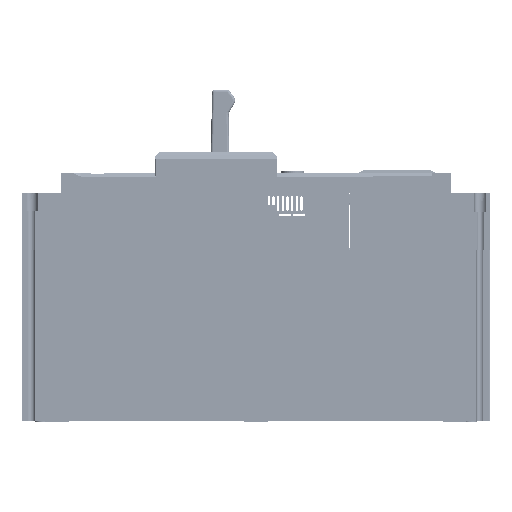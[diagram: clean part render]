
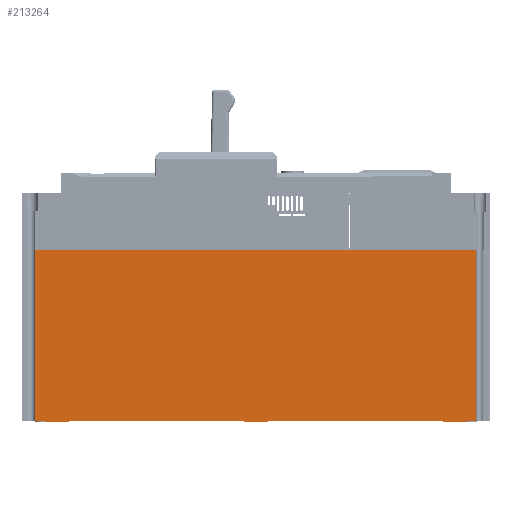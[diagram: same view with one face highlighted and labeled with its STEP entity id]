
A CAD part, top view. The second image highlights one B-rep face of the part: STEP entity #213264.
In plain terms, the highlighted planar face has unit normal (0, 0, 1).
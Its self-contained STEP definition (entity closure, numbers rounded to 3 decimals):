
#3639 = CARTESIAN_POINT ( 'NONE',  ( 113.396, 73., 67. ) ) ;
#5028 = VERTEX_POINT ( 'NONE', #497399 ) ;
#15201 = ORIENTED_EDGE ( 'NONE', *, *, #493114, .F. ) ;
#18363 = ORIENTED_EDGE ( 'NONE', *, *, #265321, .F. ) ;
#20370 = ORIENTED_EDGE ( 'NONE', *, *, #526291, .F. ) ;
#25101 = LINE ( 'NONE', #527562, #390884 ) ;
#26232 = DIRECTION ( 'NONE',  ( 0., 0., -1. ) ) ;
#28386 = DIRECTION ( 'NONE',  ( 0., -1., 0. ) ) ;
#28898 = CARTESIAN_POINT ( 'NONE',  ( -75.104, 0., 67. ) ) ;
#40007 = LINE ( 'NONE', #433467, #229737 ) ;
#46255 = CARTESIAN_POINT ( 'NONE',  ( 119.146, 0., 67. ) ) ;
#55621 = VERTEX_POINT ( 'NONE', #174013 ) ;
#74261 = DIRECTION ( 'NONE',  ( 0., 1., 0. ) ) ;
#85847 = VERTEX_POINT ( 'NONE', #451583 ) ;
#89821 = EDGE_CURVE ( 'NONE', #356897, #457767, #168728, .T. ) ;
#89988 = CARTESIAN_POINT ( 'NONE',  ( 109.146, 73., 67. ) ) ;
#90872 = VECTOR ( 'NONE', #154052, 1000. ) ;
#93621 = VERTEX_POINT ( 'NONE', #471708 ) ;
#101137 = DIRECTION ( 'NONE',  ( -1., 0., 0. ) ) ;
#101715 = ORIENTED_EDGE ( 'NONE', *, *, #288884, .F. ) ;
#106974 = CARTESIAN_POINT ( 'NONE',  ( 119.146, 0., 67. ) ) ;
#107815 = EDGE_CURVE ( 'NONE', #131280, #139687, #548832, .T. ) ;
#112816 = ORIENTED_EDGE ( 'NONE', *, *, #462921, .F. ) ;
#114953 = PLANE ( 'NONE',  #465800 ) ;
#115438 = CARTESIAN_POINT ( 'NONE',  ( 119.146, -0.5, 67. ) ) ;
#117400 = CARTESIAN_POINT ( 'NONE',  ( 14.146, -0.5, 67. ) ) ;
#129676 = DIRECTION ( 'NONE',  ( -1., 0., 0. ) ) ;
#131280 = VERTEX_POINT ( 'NONE', #547111 ) ;
#134986 = LINE ( 'NONE', #315282, #519952 ) ;
#137478 = ORIENTED_EDGE ( 'NONE', *, *, #275151, .F. ) ;
#139687 = VERTEX_POINT ( 'NONE', #243358 ) ;
#139990 = VECTOR ( 'NONE', #507394, 1000. ) ;
#143505 = VERTEX_POINT ( 'NONE', #513595 ) ;
#143963 = ORIENTED_EDGE ( 'NONE', *, *, #430348, .F. ) ;
#147740 = CARTESIAN_POINT ( 'NONE',  ( 119.146, 73., 67. ) ) ;
#148315 = EDGE_CURVE ( 'NONE', #139687, #55621, #40007, .T. ) ;
#150631 = DIRECTION ( 'NONE',  ( 0., -1., 0. ) ) ;
#154052 = DIRECTION ( 'NONE',  ( -1., 0., 0. ) ) ;
#161008 = VERTEX_POINT ( 'NONE', #457369 ) ;
#162111 = CARTESIAN_POINT ( 'NONE',  ( 24.146, 73., 67. ) ) ;
#163834 = EDGE_CURVE ( 'NONE', #93621, #568760, #212196, .T. ) ;
#168728 = LINE ( 'NONE', #390547, #221875 ) ;
#174013 = CARTESIAN_POINT ( 'NONE',  ( -60.854, -0.5, 67. ) ) ;
#185876 = VECTOR ( 'NONE', #129676, 1000. ) ;
#194627 = ORIENTED_EDGE ( 'NONE', *, *, #107815, .F. ) ;
#199718 = VECTOR ( 'NONE', #552471, 1000. ) ;
#200347 = VECTOR ( 'NONE', #275638, 1000. ) ;
#202428 = LINE ( 'NONE', #338382, #562569 ) ;
#205257 = ORIENTED_EDGE ( 'NONE', *, *, #163834, .T. ) ;
#212196 = LINE ( 'NONE', #28898, #310849 ) ;
#213264 = ADVANCED_FACE ( 'NONE', ( #508396 ), #114953, .F. ) ;
#221875 = VECTOR ( 'NONE', #304678, 1000. ) ;
#229737 = VECTOR ( 'NONE', #28386, 1000. ) ;
#240087 = LINE ( 'NONE', #106974, #582789 ) ;
#242783 = LINE ( 'NONE', #281268, #404789 ) ;
#243358 = CARTESIAN_POINT ( 'NONE',  ( -60.854, 0., 67. ) ) ;
#256054 = CARTESIAN_POINT ( 'NONE',  ( 113.396, 73., 67. ) ) ;
#265321 = EDGE_CURVE ( 'NONE', #442703, #427828, #538200, .T. ) ;
#275151 = EDGE_CURVE ( 'NONE', #284223, #131280, #25101, .T. ) ;
#275638 = DIRECTION ( 'NONE',  ( 0., -1., 0. ) ) ;
#281100 = ORIENTED_EDGE ( 'NONE', *, *, #89821, .F. ) ;
#281268 = CARTESIAN_POINT ( 'NONE',  ( 119.146, 73., 67. ) ) ;
#284223 = VERTEX_POINT ( 'NONE', #117400 ) ;
#286293 = LINE ( 'NONE', #321891, #199718 ) ;
#288884 = EDGE_CURVE ( 'NONE', #161008, #5028, #567124, .T. ) ;
#292868 = LINE ( 'NONE', #115438, #90872 ) ;
#295112 = LINE ( 'NONE', #89988, #472786 ) ;
#297380 = VECTOR ( 'NONE', #342428, 1000. ) ;
#299204 = CARTESIAN_POINT ( 'NONE',  ( -70.854, -0.5, 67. ) ) ;
#304678 = DIRECTION ( 'NONE',  ( 0., 1., 0. ) ) ;
#310354 = VECTOR ( 'NONE', #74261, 1000. ) ;
#310849 = VECTOR ( 'NONE', #572900, 1000. ) ;
#311003 = CARTESIAN_POINT ( 'NONE',  ( -70.854, 0., 67. ) ) ;
#315282 = CARTESIAN_POINT ( 'NONE',  ( 119.146, 0., 67. ) ) ;
#321116 = EDGE_LOOP ( 'NONE', ( #281100, #143963, #491287, #194627, #137478, #527288, #101715, #15201, #18363, #350596, #426957, #112816, #461606, #443981, #205257, #20370 ) ) ;
#321891 = CARTESIAN_POINT ( 'NONE',  ( 119.146, -0.5, 67. ) ) ;
#330174 = EDGE_CURVE ( 'NONE', #5028, #284223, #286293, .T. ) ;
#338382 = CARTESIAN_POINT ( 'NONE',  ( 119.146, 0., 67. ) ) ;
#342428 = DIRECTION ( 'NONE',  ( 0., -1., 0. ) ) ;
#347220 = DIRECTION ( 'NONE',  ( 0., 1., 0. ) ) ;
#350596 = ORIENTED_EDGE ( 'NONE', *, *, #442713, .F. ) ;
#354363 = LINE ( 'NONE', #392944, #185876 ) ;
#356897 = VERTEX_POINT ( 'NONE', #299204 ) ;
#374224 = CARTESIAN_POINT ( 'NONE',  ( 109.146, -0.5, 67. ) ) ;
#390547 = CARTESIAN_POINT ( 'NONE',  ( -70.854, 73., 67. ) ) ;
#390884 = VECTOR ( 'NONE', #347220, 1000. ) ;
#392944 = CARTESIAN_POINT ( 'NONE',  ( 119.146, -0.5, 67. ) ) ;
#404789 = VECTOR ( 'NONE', #423104, 1000. ) ;
#407940 = VERTEX_POINT ( 'NONE', #374224 ) ;
#408751 = LINE ( 'NONE', #3639, #200347 ) ;
#409883 = DIRECTION ( 'NONE',  ( -1., 0., 0. ) ) ;
#423104 = DIRECTION ( 'NONE',  ( 1., 0., 0. ) ) ;
#426957 = ORIENTED_EDGE ( 'NONE', *, *, #579689, .F. ) ;
#427828 = VERTEX_POINT ( 'NONE', #472580 ) ;
#430348 = EDGE_CURVE ( 'NONE', #55621, #356897, #292868, .T. ) ;
#433467 = CARTESIAN_POINT ( 'NONE',  ( -60.854, 73., 67. ) ) ;
#434547 = EDGE_CURVE ( 'NONE', #535324, #143505, #408751, .T. ) ;
#442703 = VERTEX_POINT ( 'NONE', #573280 ) ;
#442713 = EDGE_CURVE ( 'NONE', #407940, #442703, #354363, .T. ) ;
#443981 = ORIENTED_EDGE ( 'NONE', *, *, #479442, .F. ) ;
#451583 = CARTESIAN_POINT ( 'NONE',  ( 109.146, 0., 67. ) ) ;
#457369 = CARTESIAN_POINT ( 'NONE',  ( 24.146, 0., 67. ) ) ;
#457767 = VERTEX_POINT ( 'NONE', #311003 ) ;
#461606 = ORIENTED_EDGE ( 'NONE', *, *, #434547, .F. ) ;
#462921 = EDGE_CURVE ( 'NONE', #143505, #85847, #134986, .T. ) ;
#465800 = AXIS2_PLACEMENT_3D ( 'NONE', #147740, #26232, #150631 ) ;
#471708 = CARTESIAN_POINT ( 'NONE',  ( -75.104, 73., 67. ) ) ;
#472580 = CARTESIAN_POINT ( 'NONE',  ( 99.146, 0., 67. ) ) ;
#472786 = VECTOR ( 'NONE', #475487, 1000. ) ;
#475487 = DIRECTION ( 'NONE',  ( 0., -1., 0. ) ) ;
#479358 = CARTESIAN_POINT ( 'NONE',  ( 99.146, 73., 67. ) ) ;
#479442 = EDGE_CURVE ( 'NONE', #93621, #535324, #242783, .T. ) ;
#491287 = ORIENTED_EDGE ( 'NONE', *, *, #148315, .F. ) ;
#493114 = EDGE_CURVE ( 'NONE', #427828, #161008, #202428, .T. ) ;
#497399 = CARTESIAN_POINT ( 'NONE',  ( 24.146, -0.5, 67. ) ) ;
#502791 = CARTESIAN_POINT ( 'NONE',  ( -75.104, 0., 67. ) ) ;
#507394 = DIRECTION ( 'NONE',  ( -1., 0., 0. ) ) ;
#508396 = FACE_OUTER_BOUND ( 'NONE', #321116, .T. ) ;
#513595 = CARTESIAN_POINT ( 'NONE',  ( 113.396, 0., 67. ) ) ;
#518763 = DIRECTION ( 'NONE',  ( -1., 0., 0. ) ) ;
#519952 = VECTOR ( 'NONE', #409883, 1000. ) ;
#526291 = EDGE_CURVE ( 'NONE', #457767, #568760, #240087, .T. ) ;
#527288 = ORIENTED_EDGE ( 'NONE', *, *, #330174, .F. ) ;
#527562 = CARTESIAN_POINT ( 'NONE',  ( 14.146, 73., 67. ) ) ;
#535324 = VERTEX_POINT ( 'NONE', #256054 ) ;
#538200 = LINE ( 'NONE', #479358, #310354 ) ;
#547111 = CARTESIAN_POINT ( 'NONE',  ( 14.146, 0., 67. ) ) ;
#548832 = LINE ( 'NONE', #46255, #139990 ) ;
#552471 = DIRECTION ( 'NONE',  ( -1., 0., 0. ) ) ;
#562569 = VECTOR ( 'NONE', #518763, 1000. ) ;
#567124 = LINE ( 'NONE', #162111, #297380 ) ;
#568760 = VERTEX_POINT ( 'NONE', #502791 ) ;
#572900 = DIRECTION ( 'NONE',  ( 0., -1., 0. ) ) ;
#573280 = CARTESIAN_POINT ( 'NONE',  ( 99.146, -0.5, 67. ) ) ;
#579689 = EDGE_CURVE ( 'NONE', #85847, #407940, #295112, .T. ) ;
#582789 = VECTOR ( 'NONE', #101137, 1000. ) ;
